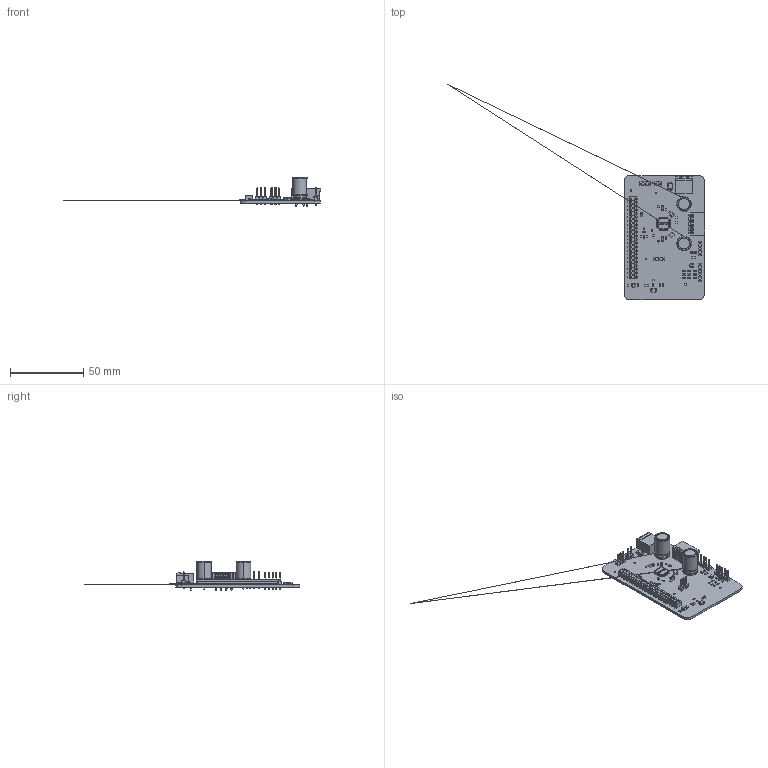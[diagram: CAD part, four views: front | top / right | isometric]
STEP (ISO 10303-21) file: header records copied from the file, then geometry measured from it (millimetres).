
FILE_DESCRIPTION(('FreeCAD Model'),'2;1');
FILE_NAME('Open CASCADE Shape Model','2022-11-02T16:19:17',('CV'),( 'ADI Trinamic'),'Open CASCADE STEP processor 7.6','FreeCAD', 'Unknown');
FILE_SCHEMA(('AUTOMOTIVE_DESIGN { 1 0 10303 214 1 1 1 1 }'));
Length unit declared in the file: millimetre
Products named in the file (197): TMC5130-Eval_v15; Board_Geoms_cbda; Pcb_cbda; Step_Virtual_Models_cbda; TopV_cbda; PWR0_pt115-t330-02 v005_d066cb6ca7e2; pt115-t330-02 v2; pt115-t330-02 v003; pt115-t330-02 v004; C11_C1210C335K5RACAUTO003_cee00203f802; C1210C335K5RACAUTO; C1210C335K5RACAUTO001; C1210C335K5RACAUTO002; INTERFACE_TO_UC/MC0_HLE-122-02-S-DV-BE-A_d665e9555ad9; C-132-12-22-DV; HLE-122-02-DV-A_socket; C7_C0603C823K4RACTU003_3f88fc6b4ef4; C0603C823K4RACTU; C0603C823K4RACTU001; C0603C823K4RACTU002; CON_S/D0_61300311121_1_c743f718412c; SOLID; SOLID001; SOLID002; SOLID003; SW_SEL0_61300211121_1_9264e17f5000; SOLID004; SOLID005; SOLID006; TMC5130_26CB2EF4-A9F1-4B43-B763-EDEFA0221015_a9de37c6703c; R1_4-2176243-5_c940ae689046; R13_4-2176243-5_a8600d1060dc; R_SD0_4-2176243-5_0cd1030fbcef; C8_C0603C823K4RACTU006_f1a6f8079b6b; C0603C823K4RACTU003; C0603C823K4RACTU004; C0603C823K4RACTU005; C16_C0603C823K4RACTU009_60170cb7be7f; C0603C823K4RACTU006; C0603C823K4RACTU007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
Assembly tree (196 placements, depth 6):
  TMC5130-Eval_v15
    Board_Geoms_cbda
      Pcb_cbda
    Step_Virtual_Models_cbda
      TopV_cbda
        PWR0_pt115-t330-02 v005_d066cb6ca7e2
          pt115-t330-02 v2
          pt115-t330-02 v003
          pt115-t330-02 v004
        C11_C1210C335K5RACAUTO003_cee00203f802
          C1210C335K5RACAUTO
          C1210C335K5RACAUTO001
          C1210C335K5RACAUTO002
        INTERFACE_TO_UC/MC0_HLE-122-02-S-DV-BE-A_d665e9555ad9
          C-132-12-22-DV
          HLE-122-02-DV-A_socket
        C7_C0603C823K4RACTU003_3f88fc6b4ef4
          C0603C823K4RACTU
          C0603C823K4RACTU001
          C0603C823K4RACTU002
        CON_S/D0_61300311121_1_c743f718412c
          SOLID
          SOLID001
          SOLID002
          SOLID003
        SW_SEL0_61300211121_1_9264e17f5000
          SOLID004
          SOLID005
          SOLID006
        TMC5130_26CB2EF4-A9F1-4B43-B763-EDEFA0221015_a9de37c6703c
        R1_4-2176243-5_c940ae689046
        R13_4-2176243-5_a8600d1060dc
        R_SD0_4-2176243-5_0cd1030fbcef
        C8_C0603C823K4RACTU006_f1a6f8079b6b
          C0603C823K4RACTU003
          C0603C823K4RACTU004
          C0603C823K4RACTU005
        C16_C0603C823K4RACTU009_60170cb7be7f
          C0603C823K4RACTU006
          C0603C823K4RACTU007
          C0603C823K4RACTU008
        REF2_61300411121_1_04bd4f36513f
          SOLID007
          SOLID008
          SOLID009
          SOLID010
          SOLID011
        IC2_DBV5A007_10e6d734531d
          DBV5A
          DBV5A001
          DBV5A002
          DBV5A003
          DBV5A004
          DBV5A005
          DBV5A006
        ENC0_SEL0_61300211121_1_c80f9e26e890
          SOLID012
          SOLID013
          SOLID014
        ENC0_S/D0_61300311121_1_c80f9e26e890[2]
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Bounding box: 176.3 x 147.5 x 20.1 mm (x, y, z)
Volume: 12576.7 mm3; surface area: 18614.7 mm2
Topology: 157 solids, 159 shells, 5409 faces, 14084 edges, 8939 vertices
Faces by surface type: plane 3927, cylinder 1034, sphere 140, bspline 134, extrusion 124, cone 32, torus 18
Full cylindrical faces by diameter (mm): 0.9 x4, 1.1 x68, 1.5 x6, 1.587 x2, 1.8 x2
Entity records: 183874 total; most frequent: CARTESIAN_POINT 37492, ORIENTED_EDGE 27858, DIRECTION 26093, EDGE_CURVE 13932, VECTOR 11345, LINE 11221, VERTEX_POINT 8939, AXIS2_PLACEMENT_3D 7374
